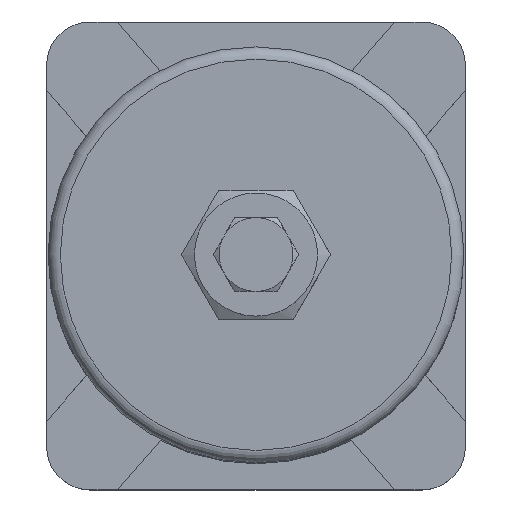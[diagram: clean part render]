
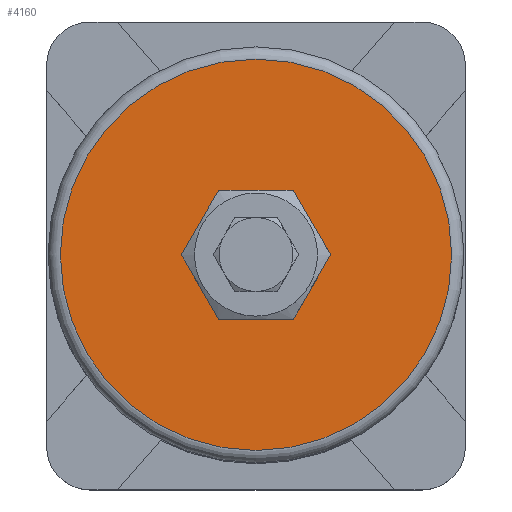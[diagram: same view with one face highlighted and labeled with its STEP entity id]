
A CAD part, top view. The second image highlights one B-rep face of the part: STEP entity #4160.
In plain terms, the highlighted planar face has unit normal (0, 0, 1).
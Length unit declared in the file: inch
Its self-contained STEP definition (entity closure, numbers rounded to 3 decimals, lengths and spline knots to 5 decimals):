
#1006=PLANE('',#4449);
#1087=FACE_BOUND('',#1544,.T.);
#1263=FACE_OUTER_BOUND('',#1543,.T.);
#1543=EDGE_LOOP('',(#3413));
#1544=EDGE_LOOP('',(#3414));
#1687=CIRCLE('',#4434,0.4375);
#1693=CIRCLE('',#4448,1.9863);
#1988=VERTEX_POINT('',#6394);
#1994=VERTEX_POINT('',#6414);
#2480=EDGE_CURVE('',#1988,#1988,#1687,.T.);
#2486=EDGE_CURVE('',#1994,#1994,#1693,.T.);
#3413=ORIENTED_EDGE('',*,*,#2486,.T.);
#3414=ORIENTED_EDGE('',*,*,#2480,.T.);
#4160=ADVANCED_FACE('',(#1263,#1087),#1006,.T.);
#4434=AXIS2_PLACEMENT_3D('',#6395,#5223,#5224);
#4448=AXIS2_PLACEMENT_3D('',#6415,#5251,#5252);
#4449=AXIS2_PLACEMENT_3D('',#6416,#5253,#5254);
#5223=DIRECTION('center_axis',(0.,0.,
-1.));
#5224=DIRECTION('ref_axis',(0.,-1.,0.));
#5251=DIRECTION('center_axis',(0.,0.,
1.));
#5252=DIRECTION('ref_axis',(-1.,0.,0.));
#5253=DIRECTION('center_axis',(0.,0.,
1.));
#5254=DIRECTION('ref_axis',(0.,-1.,0.));
#6394=CARTESIAN_POINT('',(0.,-0.4375,7.0625));
#6395=CARTESIAN_POINT('Origin',(0.,0.,
7.0625));
#6414=CARTESIAN_POINT('',(-1.9863,0.,7.0625));
#6415=CARTESIAN_POINT('Origin',(0.,0.,
7.0625));
#6416=CARTESIAN_POINT('Origin',(-0.99315,0.,
7.0625));
